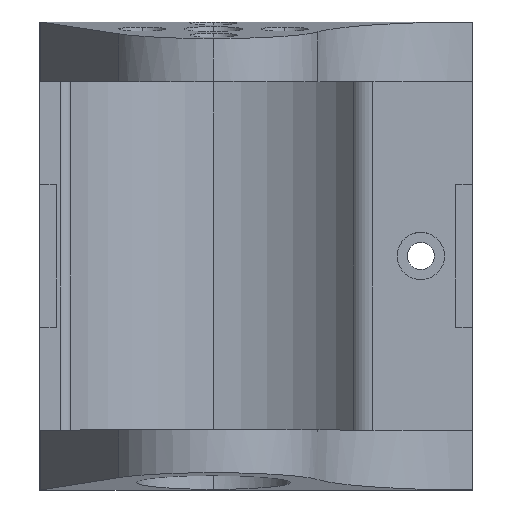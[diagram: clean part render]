
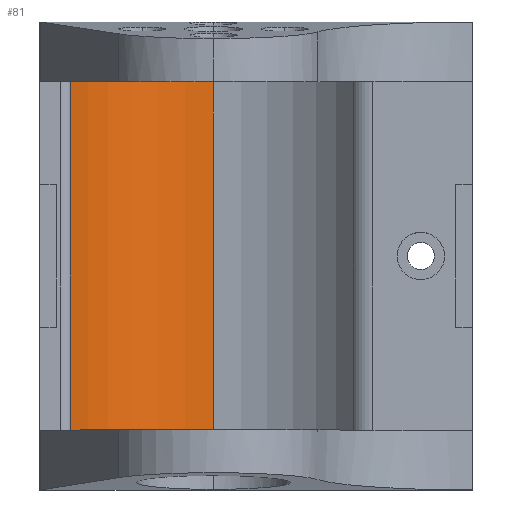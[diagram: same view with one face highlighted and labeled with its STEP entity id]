
A CAD part, top view. The second image highlights one B-rep face of the part: STEP entity #81.
In plain terms, the highlighted cylindrical face has radius 14.25 mm (diameter 28.5 mm), a partial arc.
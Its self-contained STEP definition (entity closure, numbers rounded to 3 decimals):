
#6 = EDGE_CURVE ( 'NONE', #1468, #1198, #2645, .T. ) ;
#22 = CIRCLE ( 'NONE', #731, 14.25 ) ;
#44 = DIRECTION ( 'NONE',  ( 0., 0., -1. ) ) ;
#81 = ADVANCED_FACE ( 'NONE', ( #1555 ), #481, .F. ) ;
#146 = VECTOR ( 'NONE', #1997, 1000. ) ;
#308 = DIRECTION ( 'NONE',  ( 0., -1., 0. ) ) ;
#332 = CARTESIAN_POINT ( 'NONE',  ( 0., 14.7, -14.25 ) ) ;
#470 = CARTESIAN_POINT ( 'NONE',  ( 0., 55.005, 0. ) ) ;
#481 = CYLINDRICAL_SURFACE ( 'NONE', #1875, 14.25 ) ;
#547 = ORIENTED_EDGE ( 'NONE', *, *, #626, .T. ) ;
#548 = AXIS2_PLACEMENT_3D ( 'NONE', #1762, #1258, #2162 ) ;
#564 = EDGE_CURVE ( 'NONE', #2631, #1468, #2677, .T. ) ;
#626 = EDGE_CURVE ( 'NONE', #2631, #2056, #22, .T. ) ;
#731 = AXIS2_PLACEMENT_3D ( 'NONE', #1207, #2054, #2267 ) ;
#767 = CARTESIAN_POINT ( 'NONE',  ( 0., -14.7, -14.25 ) ) ;
#851 = LINE ( 'NONE', #864, #1070 ) ;
#864 = CARTESIAN_POINT ( 'NONE',  ( -12.074, 55.005, -7.569 ) ) ;
#1070 = VECTOR ( 'NONE', #1720, 1000. ) ;
#1198 = VERTEX_POINT ( 'NONE', #1500 ) ;
#1207 = CARTESIAN_POINT ( 'NONE',  ( 0., 14.7, 0. ) ) ;
#1258 = DIRECTION ( 'NONE',  ( 0., 1., 0. ) ) ;
#1468 = VERTEX_POINT ( 'NONE', #767 ) ;
#1500 = CARTESIAN_POINT ( 'NONE',  ( -12.074, -14.7, -7.569 ) ) ;
#1555 = FACE_OUTER_BOUND ( 'NONE', #2551, .T. ) ;
#1636 = ORIENTED_EDGE ( 'NONE', *, *, #6, .F. ) ;
#1689 = ORIENTED_EDGE ( 'NONE', *, *, #2787, .T. ) ;
#1720 = DIRECTION ( 'NONE',  ( 0., -1., 0. ) ) ;
#1762 = CARTESIAN_POINT ( 'NONE',  ( 0., -14.7, 0. ) ) ;
#1787 = CARTESIAN_POINT ( 'NONE',  ( -12.074, 14.7, -7.569 ) ) ;
#1875 = AXIS2_PLACEMENT_3D ( 'NONE', #470, #308, #44 ) ;
#1997 = DIRECTION ( 'NONE',  ( 0., -1., 0. ) ) ;
#2054 = DIRECTION ( 'NONE',  ( 0., 1., 0. ) ) ;
#2056 = VERTEX_POINT ( 'NONE', #1787 ) ;
#2150 = ORIENTED_EDGE ( 'NONE', *, *, #564, .F. ) ;
#2162 = DIRECTION ( 'NONE',  ( 0., 0., 1. ) ) ;
#2267 = DIRECTION ( 'NONE',  ( 0., 0., 1. ) ) ;
#2551 = EDGE_LOOP ( 'NONE', ( #2150, #547, #1689, #1636 ) ) ;
#2631 = VERTEX_POINT ( 'NONE', #332 ) ;
#2645 = CIRCLE ( 'NONE', #548, 14.25 ) ;
#2665 = CARTESIAN_POINT ( 'NONE',  ( 0., 55.005, -14.25 ) ) ;
#2677 = LINE ( 'NONE', #2665, #146 ) ;
#2787 = EDGE_CURVE ( 'NONE', #2056, #1198, #851, .T. ) ;
